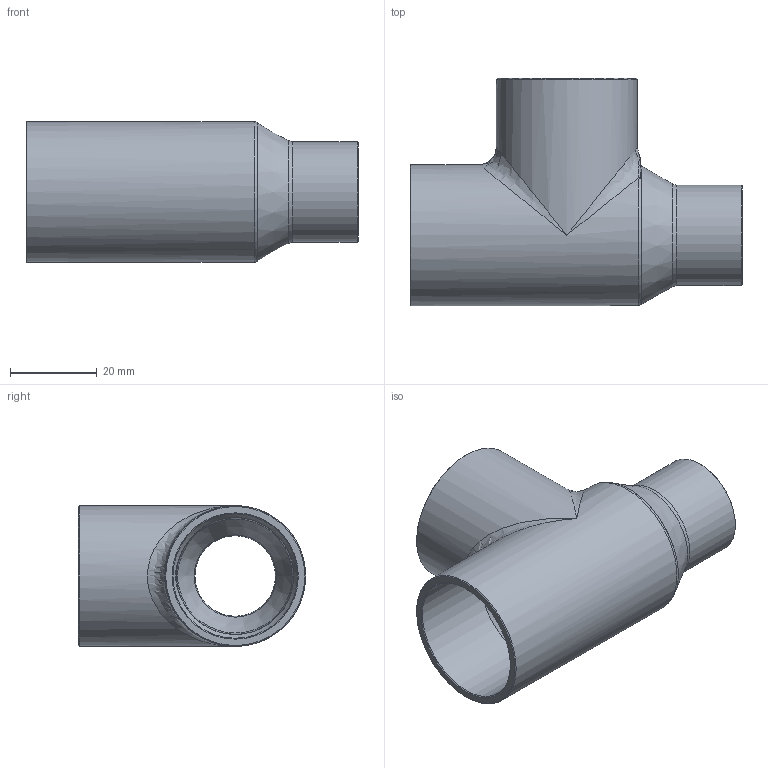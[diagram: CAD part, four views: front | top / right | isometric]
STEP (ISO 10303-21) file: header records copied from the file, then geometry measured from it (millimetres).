
FILE_DESCRIPTION((''),'2;1');
FILE_NAME('G:\SANHA-Ternat\Technik\Management\Bouwmaten + markeringen\z-maattekeningen 3D\29000s\2913011811834_3d.stp','2017-08-01T11:42:04',('vdvijverd'),(''),'Autodesk Inventor 2009','Autodesk Inventor 2009','');
FILE_SCHEMA(('AUTOMOTIVE_DESIGN { 1 0 10303 214 1 1 1 1 }'));
Length unit declared in the file: millimetre
Products named in the file (1): 2913011811834_3d
Bounding box: 76.6 x 52.45 x 32.5 mm (x, y, z)
Volume: 18867 mm3; surface area: 17237 mm2
Topology: 1 solids, 1 shells, 36 faces, 87 edges, 48 vertices
Faces by surface type: cone 10, bspline 10, cylinder 9, plane 4, torus 3
Full cylindrical faces by diameter (mm): 19.17 x1, 23.17 x1, 28.725 x2, 32.5 x2
Entity records: 2554 total; most frequent: CARTESIAN_POINT 1866, DIRECTION 134, ORIENTED_EDGE 114, AXIS2_PLACEMENT_3D 67, EDGE_LOOP 59, EDGE_CURVE 57, VERTEX_POINT 42, FACE_OUTER_BOUND 36
